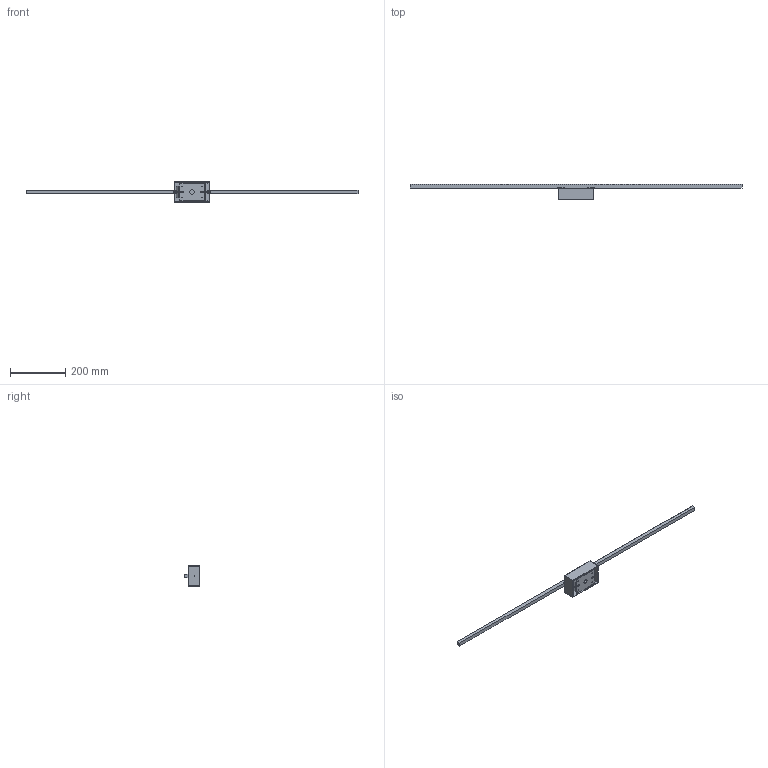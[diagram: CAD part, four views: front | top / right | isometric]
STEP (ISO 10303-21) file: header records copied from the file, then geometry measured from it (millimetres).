
FILE_DESCRIPTION (( 'STEP AP203' ), '1' );
FILE_NAME ('WS18248-CH.STEP', '2020-09-21T21:32:45', ( '' ), ( '' ), 'SwSTEP 2.0', 'SolidWorks 2018', '' );
FILE_SCHEMA (( 'CONFIG_CONTROL_DESIGN' ));
Length unit declared in the file: millimetre
Products named in the file (9): COAXIAL FEMAL; LIGHT_DIRECT 48; M8 x 1 NUT; SINGLE BACK PLATE; COAXIAL MALE; CANOPY; CANOPY_single; WS18248-CH; VEGA MINOR WALL MOUNT LIGHT_DIRECT 48
Assembly tree (11 placements, depth 3):
  WS18248-CH
    CANOPY_single
      CANOPY
      COAXIAL MALE  x2
      M8 x 1 NUT  x2
      SINGLE BACK PLATE
    VEGA MINOR WALL MOUNT LIGHT_DIRECT 48
      LIGHT_DIRECT 48
      COAXIAL FEMAL  x2
Bounding box: 1200 x 55.3 x 75 mm (x, y, z)
Volume: 264017 mm3; surface area: 168923.3 mm2
Topology: 16 solids, 16 shells, 566 faces, 1420 edges, 906 vertices
Faces by surface type: plane 220, cylinder 212, bspline 72, cone 34, torus 24, sphere 4
Entity records: 22822 total; most frequent: CARTESIAN_POINT 13661, ORIENTED_EDGE 1740, DIRECTION 1651, EDGE_CURVE 870, AXIS2_PLACEMENT_3D 610, VERTEX_POINT 555, LINE 431, VECTOR 431
